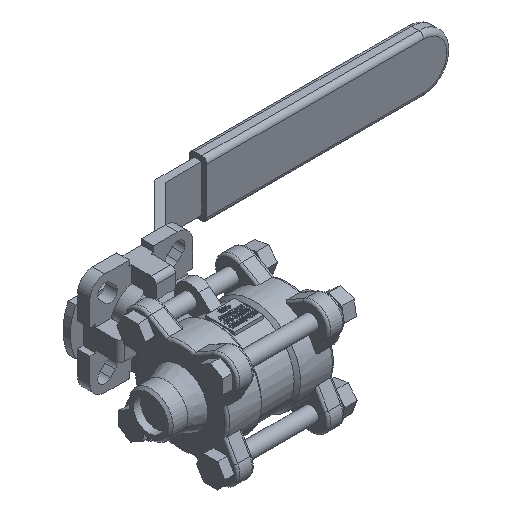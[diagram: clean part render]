
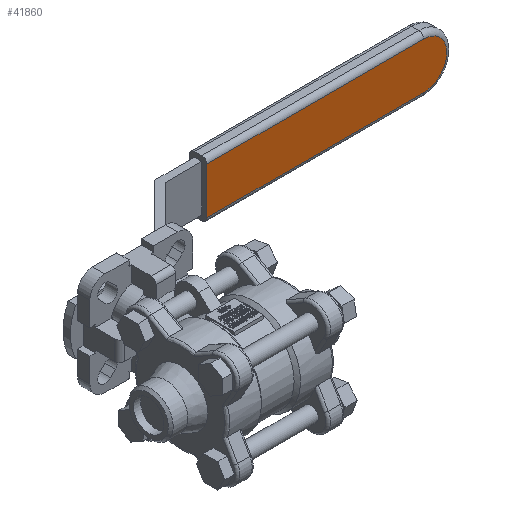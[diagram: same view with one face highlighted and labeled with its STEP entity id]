
A CAD part, isometric view. The second image highlights one B-rep face of the part: STEP entity #41860.
In plain terms, the highlighted planar face has unit normal (0, -1, 0).
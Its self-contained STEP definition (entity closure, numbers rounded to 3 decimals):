
#41743=CARTESIAN_POINT('',(56.243,67.5,9.5));
#41744=VERTEX_POINT('',#41743);
#41752=CARTESIAN_POINT('',(144.743,67.5,9.5));
#41753=VERTEX_POINT('',#41752);
#41754=CARTESIAN_POINT('',(56.243,67.5,9.5));
#41755=DIRECTION('',(1.0,0.0,0.0));
#41756=VECTOR('',#41755,88.5);
#41757=LINE('',#41754,#41756);
#41758=EDGE_CURVE('',#41744,#41753,#41757,.T.);
#41783=CARTESIAN_POINT('',(144.743,67.5,-9.5));
#41784=VERTEX_POINT('',#41783);
#41802=CARTESIAN_POINT('',(144.743,67.5,0.));
#41803=DIRECTION('',(0.0,1.0,0.0));
#41804=DIRECTION('',(1.0,0.0,0.0));
#41805=AXIS2_PLACEMENT_3D('',#41802,#41803,#41804);
#41806=CIRCLE('',#41805,9.5);
#41807=EDGE_CURVE('',#41753,#41784,#41806,.T.);
#41817=CARTESIAN_POINT('',(56.243,67.5,-9.5));
#41818=VERTEX_POINT('',#41817);
#41835=CARTESIAN_POINT('',(144.743,67.5,-9.5));
#41836=DIRECTION('',(-1.0,0.0,0.0));
#41837=VECTOR('',#41836,88.5);
#41838=LINE('',#41835,#41837);
#41839=EDGE_CURVE('',#41784,#41818,#41838,.T.);
#41844=CARTESIAN_POINT('',(56.243,67.5,-11.5));
#41845=DIRECTION('',(0.0,-1.0,0.0));
#41846=DIRECTION('',(0.0,0.0,-1.0));
#41847=AXIS2_PLACEMENT_3D('',#41844,#41845,#41846);
#41848=PLANE('',#41847);
#41849=ORIENTED_EDGE('',*,*,#41839,.F.);
#41850=ORIENTED_EDGE('',*,*,#41807,.F.);
#41851=ORIENTED_EDGE('',*,*,#41758,.F.);
#41852=CARTESIAN_POINT('',(56.243,67.5,-9.5));
#41853=DIRECTION('',(0.0,0.0,1.0));
#41854=VECTOR('',#41853,19.0);
#41855=LINE('',#41852,#41854);
#41856=EDGE_CURVE('',#41818,#41744,#41855,.T.);
#41857=ORIENTED_EDGE('',*,*,#41856,.F.);
#41858=EDGE_LOOP('',(#41849,#41850,#41851,#41857));
#41859=FACE_OUTER_BOUND('',#41858,.T.);
#41860=ADVANCED_FACE('',(#41859),#41848,.T.);
